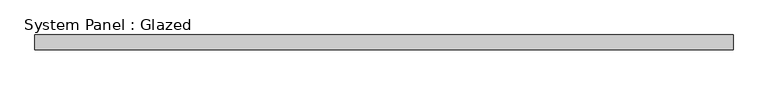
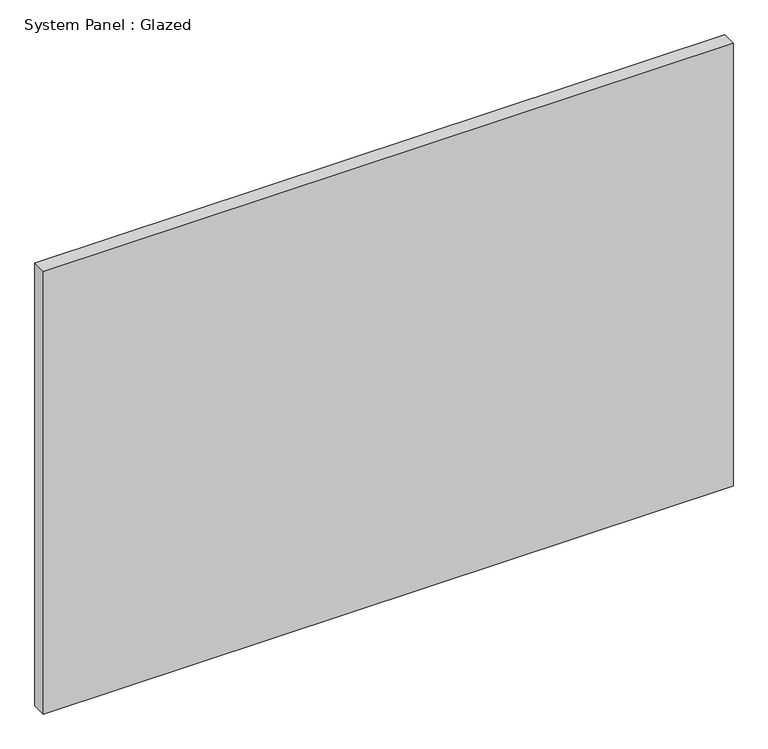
"""IFC4 building model written with IfcOpenShell, lengths in millimetres: plate geometry, System Panel : Glazed."""

from ifc_helpers import new_model, si_unit, origin, origin_with_axes, place, context, project, spatial, polyline, outline, extrude, source, transform, mapped, element, save


def system_panel_glazed_1dc7f260(model_context):
    return source(origin(), model_context, "Body", "SweptSolid", [
        extrude(outline(polyline([(600.1804533, 19.05), (-600.1804533, 19.05), (-600.1804533, 44.45), (600.1804533, 44.45), (600.1804533, 19.05)])), origin_with_axes(), (0.0, 0.0, 1.0), 814.714222),
    ])


if __name__ == "__main__":
    model = new_model("IFC4")
    model_context = context("Model", 3, world=origin())
    ifc_project = project(units=[si_unit("LENGTHUNIT", "METRE", prefix="MILLI")], contexts=[model_context])
    site = spatial("IfcSite", under=ifc_project)
    building = spatial("IfcBuilding", under=site)
    placement = place(None, origin())
    system_panel_glazed_shape = system_panel_glazed_1dc7f260(model_context)
    element("IfcPlate", 1, ObjectType="System Panel : Glazed", at=placement, inside=building, context=model_context, shape_type="MappedRepresentation", body=[
        mapped(system_panel_glazed_shape, transform((0.0, 0.0, 0.0), x_axis=(1.0, 0.0, 0.0), y_axis=(0.0, 1.0, 0.0), z_axis=(0.0, 0.0, 1.0))),
    ])
    save(model, "model.ifc")
